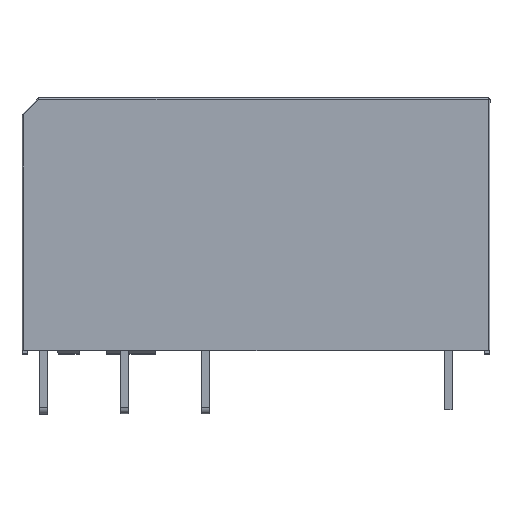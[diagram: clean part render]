
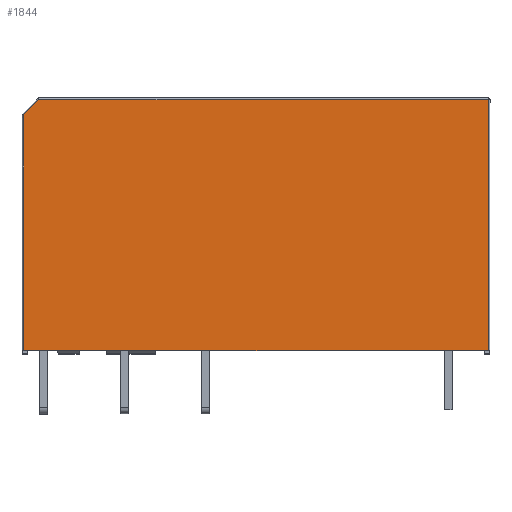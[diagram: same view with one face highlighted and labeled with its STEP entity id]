
A CAD part, top view. The second image highlights one B-rep face of the part: STEP entity #1844.
In plain terms, the highlighted planar face has unit normal (0, 0, 1).
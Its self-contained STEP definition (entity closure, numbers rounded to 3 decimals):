
#128 = EDGE_CURVE ( 'NONE', #2618, #1935, #1899, .T. ) ;
#301 = DIRECTION ( 'NONE',  ( 0., 1., 0. ) ) ;
#405 = EDGE_CURVE ( 'NONE', #2618, #1879, #2324, .T. ) ;
#511 = VECTOR ( 'NONE', #1141, 1000. ) ;
#764 = CARTESIAN_POINT ( 'NONE',  ( 7.109, 9.411, 24.278 ) ) ;
#766 = CARTESIAN_POINT ( 'NONE',  ( -21.591, 8.469, 24.278 ) ) ;
#842 = EDGE_CURVE ( 'NONE', #2938, #1951, #1189, .T. ) ;
#983 = VECTOR ( 'NONE', #1745, 1000. ) ;
#1037 = CARTESIAN_POINT ( 'NONE',  ( -21.591, -6.089, 24.278 ) ) ;
#1073 = DIRECTION ( 'NONE',  ( -1., 0., 0. ) ) ;
#1111 = VECTOR ( 'NONE', #301, 1000. ) ;
#1141 = DIRECTION ( 'NONE',  ( 1., 0., 0. ) ) ;
#1161 = EDGE_CURVE ( 'NONE', #1935, #2938, #2646, .T. ) ;
#1189 = LINE ( 'NONE', #2534, #2959 ) ;
#1285 = FACE_OUTER_BOUND ( 'NONE', #1308, .T. ) ;
#1308 = EDGE_LOOP ( 'NONE', ( #1584, #1354, #2870, #2000, #2254 ) ) ;
#1354 = ORIENTED_EDGE ( 'NONE', *, *, #842, .T. ) ;
#1477 = DIRECTION ( 'NONE',  ( -1., 0., 0. ) ) ;
#1483 = CARTESIAN_POINT ( 'NONE',  ( 7.109, -6.089, 24.278 ) ) ;
#1584 = ORIENTED_EDGE ( 'NONE', *, *, #1161, .T. ) ;
#1634 = LINE ( 'NONE', #2952, #983 ) ;
#1717 = PLANE ( 'NONE',  #2363 ) ;
#1745 = DIRECTION ( 'NONE',  ( -0.707, -0.707, 0. ) ) ;
#1844 = ADVANCED_FACE ( 'NONE', ( #1285 ), #1717, .T. ) ;
#1879 = VERTEX_POINT ( 'NONE', #766 ) ;
#1899 = LINE ( 'NONE', #2839, #511 ) ;
#1935 = VERTEX_POINT ( 'NONE', #2975 ) ;
#1951 = VERTEX_POINT ( 'NONE', #2505 ) ;
#2000 = ORIENTED_EDGE ( 'NONE', *, *, #405, .F. ) ;
#2197 = CARTESIAN_POINT ( 'NONE',  ( 7.109, -6.089, 24.278 ) ) ;
#2203 = DIRECTION ( 'NONE',  ( 0., 1., 0. ) ) ;
#2254 = ORIENTED_EDGE ( 'NONE', *, *, #128, .T. ) ;
#2324 = LINE ( 'NONE', #1037, #1111 ) ;
#2363 = AXIS2_PLACEMENT_3D ( 'NONE', #2197, #2935, #1477 ) ;
#2505 = CARTESIAN_POINT ( 'NONE',  ( -20.649, 9.411, 24.278 ) ) ;
#2534 = CARTESIAN_POINT ( 'NONE',  ( 7.109, 9.411, 24.278 ) ) ;
#2572 = VECTOR ( 'NONE', #2203, 1000. ) ;
#2618 = VERTEX_POINT ( 'NONE', #2850 ) ;
#2646 = LINE ( 'NONE', #1483, #2572 ) ;
#2839 = CARTESIAN_POINT ( 'NONE',  ( -21.591, -6.089, 24.278 ) ) ;
#2850 = CARTESIAN_POINT ( 'NONE',  ( -21.591, -6.089, 24.278 ) ) ;
#2870 = ORIENTED_EDGE ( 'NONE', *, *, #2919, .T. ) ;
#2919 = EDGE_CURVE ( 'NONE', #1951, #1879, #1634, .T. ) ;
#2935 = DIRECTION ( 'NONE',  ( 0., 0., 1. ) ) ;
#2938 = VERTEX_POINT ( 'NONE', #764 ) ;
#2952 = CARTESIAN_POINT ( 'NONE',  ( -14.52, 15.54, 24.278 ) ) ;
#2959 = VECTOR ( 'NONE', #1073, 1000. ) ;
#2975 = CARTESIAN_POINT ( 'NONE',  ( 7.109, -6.089, 24.278 ) ) ;
